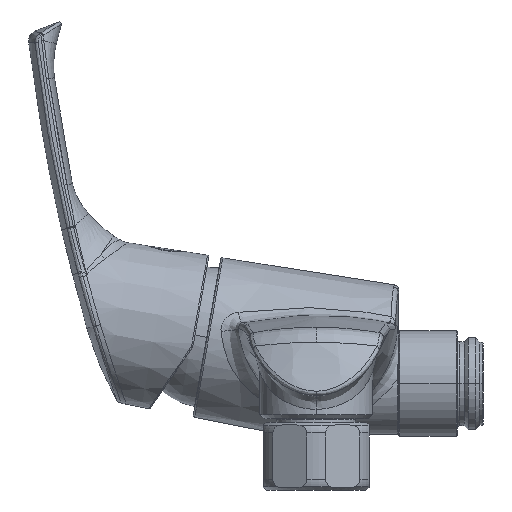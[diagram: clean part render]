
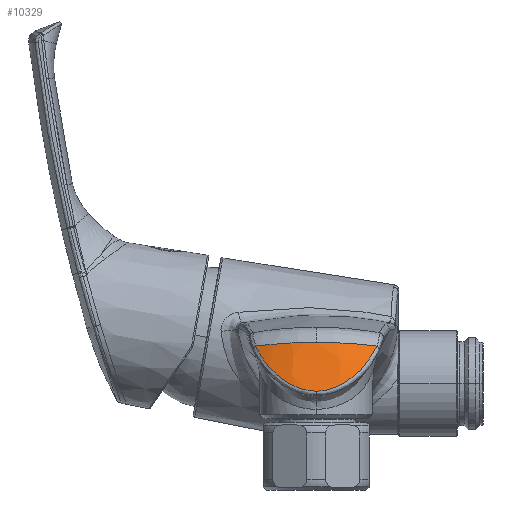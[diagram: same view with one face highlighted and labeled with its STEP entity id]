
A CAD part, left-side view. The second image highlights one B-rep face of the part: STEP entity #10329.
In plain terms, the highlighted free-form (B-spline) face has degree [3, 3] with [4, 4] control points.
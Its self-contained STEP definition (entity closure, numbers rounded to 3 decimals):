
#2993=CARTESIAN_POINT('',(-87.451,72.168,12.69));
#3019=CARTESIAN_POINT('',(-91.788,55.,13.753));
#3059=CARTESIAN_POINT('',(-96.856,55.,-0.141));
#3060=CARTESIAN_POINT('',(-96.856,55.171,
-0.141));
#3061=CARTESIAN_POINT('',(-96.852,55.514,
-0.134));
#3062=CARTESIAN_POINT('',(-96.834,56.031,
-0.104));
#3063=CARTESIAN_POINT('',(-96.804,56.554,
-0.053));
#3064=CARTESIAN_POINT('',(-96.762,57.084,
0.02));
#3065=CARTESIAN_POINT('',(-96.706,57.621,
0.114));
#3066=CARTESIAN_POINT('',(-96.636,58.166,
0.231));
#3067=CARTESIAN_POINT('',(-96.552,58.717,
0.372));
#3068=CARTESIAN_POINT('',(-96.452,59.274,
0.536));
#3069=CARTESIAN_POINT('',(-96.337,59.834,
0.724));
#3070=CARTESIAN_POINT('',(-96.205,60.398,
0.937));
#3071=CARTESIAN_POINT('',(-96.056,60.969,1.177));
#3072=CARTESIAN_POINT('',(-95.886,61.551,1.448));
#3073=CARTESIAN_POINT('',(-95.695,62.141,1.748));
#3074=CARTESIAN_POINT('',(-95.484,62.731,2.076));
#3075=CARTESIAN_POINT('',(-95.251,63.324,2.434));
#3076=CARTESIAN_POINT('',(-94.994,63.922,2.824));
#3077=CARTESIAN_POINT('',(-94.711,64.524,3.249));
#3078=CARTESIAN_POINT('',(-94.401,65.127,3.706));
#3079=CARTESIAN_POINT('',(-94.065,65.728,4.195));
#3080=CARTESIAN_POINT('',(-93.7,66.325,4.717));
#3081=CARTESIAN_POINT('',(-93.307,66.918,5.273));
#3082=CARTESIAN_POINT('',(-92.883,67.503,5.859));
#3083=CARTESIAN_POINT('',(-92.433,68.074,6.472));
#3084=CARTESIAN_POINT('',(-91.959,68.627,7.107));
#3085=CARTESIAN_POINT('',(-91.453,69.169,7.772));
#3086=CARTESIAN_POINT('',(-90.924,69.689,8.455));
#3087=CARTESIAN_POINT('',(-90.378,70.18,9.147));
#3088=CARTESIAN_POINT('',(-89.804,70.652,9.861));
#3089=CARTESIAN_POINT('',(-89.217,71.093,10.578));
#3090=CARTESIAN_POINT('',(-88.643,71.483,11.272));
#3091=CARTESIAN_POINT('',(-88.058,71.842,11.973));
#3092=CARTESIAN_POINT('',(-87.655,72.062,12.45));
#3093=CARTESIAN_POINT('',(-87.451,72.168,12.69));
#3095=CARTESIAN_POINT('',(-87.451,72.168,12.69));
#3096=CARTESIAN_POINT('',(-87.837,71.462,12.776));
#3097=CARTESIAN_POINT('',(-88.607,69.943,12.944));
#3098=CARTESIAN_POINT('',(-89.687,67.314,13.203));
#3099=CARTESIAN_POINT('',(-90.617,64.359,13.439));
#3100=CARTESIAN_POINT('',(-91.296,61.252,13.619));
#3101=CARTESIAN_POINT('',(-91.698,58.143,13.728));
#3102=CARTESIAN_POINT('',(-91.788,56.048,13.753));
#3103=CARTESIAN_POINT('',(-91.788,55.,13.753));
#3105=CARTESIAN_POINT('',(-91.788,55.,13.753));
#3106=CARTESIAN_POINT('',(-91.788,54.065,13.753));
#3107=CARTESIAN_POINT('',(-91.717,52.196,13.733));
#3108=CARTESIAN_POINT('',(-91.395,49.403,13.646));
#3109=CARTESIAN_POINT('',(-90.857,46.644,13.501));
#3110=CARTESIAN_POINT('',(-90.135,44.042,13.317));
#3111=CARTESIAN_POINT('',(-89.29,41.685,13.11));
#3112=CARTESIAN_POINT('',(-88.385,39.612,12.896));
#3113=CARTESIAN_POINT('',(-87.76,38.398,12.759));
#3114=CARTESIAN_POINT('',(-87.452,37.832,12.69));
#3116=CARTESIAN_POINT('',(-87.452,37.832,12.69));
#3117=CARTESIAN_POINT('',(-87.654,37.937,12.45));
#3118=CARTESIAN_POINT('',(-88.056,38.157,11.975));
#3119=CARTESIAN_POINT('',(-88.642,38.516,11.272));
#3120=CARTESIAN_POINT('',(-89.218,38.908,10.577));
#3121=CARTESIAN_POINT('',(-89.803,39.347,9.863));
#3122=CARTESIAN_POINT('',(-90.375,39.818,9.151));
#3123=CARTESIAN_POINT('',(-90.922,40.31,8.457));
#3124=CARTESIAN_POINT('',(-91.451,40.829,7.774));
#3125=CARTESIAN_POINT('',(-91.958,41.371,7.109));
#3126=CARTESIAN_POINT('',(-92.432,41.924,6.474));
#3127=CARTESIAN_POINT('',(-92.882,42.495,5.861));
#3128=CARTESIAN_POINT('',(-93.306,43.081,5.274));
#3129=CARTESIAN_POINT('',(-93.7,43.675,4.717));
#3130=CARTESIAN_POINT('',(-94.065,44.273,4.195));
#3131=CARTESIAN_POINT('',(-94.402,44.873,3.705));
#3132=CARTESIAN_POINT('',(-94.711,45.476,3.248));
#3133=CARTESIAN_POINT('',(-94.994,46.078,2.824));
#3134=CARTESIAN_POINT('',(-95.252,46.676,2.434));
#3135=CARTESIAN_POINT('',(-95.484,47.269,2.076));
#3136=CARTESIAN_POINT('',(-95.695,47.86,1.748));
#3137=CARTESIAN_POINT('',(-95.886,48.449,1.448));
#3138=CARTESIAN_POINT('',(-96.056,49.032,1.177));
#3139=CARTESIAN_POINT('',(-96.206,49.603,
0.937));
#3140=CARTESIAN_POINT('',(-96.337,50.166,
0.724));
#3141=CARTESIAN_POINT('',(-96.452,50.726,
0.536));
#3142=CARTESIAN_POINT('',(-96.552,51.283,
0.372));
#3143=CARTESIAN_POINT('',(-96.636,51.835,
0.231));
#3144=CARTESIAN_POINT('',(-96.706,52.379,
0.114));
#3145=CARTESIAN_POINT('',(-96.762,52.916,
0.02));
#3146=CARTESIAN_POINT('',(-96.804,53.445,
-0.053));
#3147=CARTESIAN_POINT('',(-96.834,53.969,
-0.104));
#3148=CARTESIAN_POINT('',(-96.852,54.486,
-0.134));
#3149=CARTESIAN_POINT('',(-96.856,54.829,
-0.141));
#3150=CARTESIAN_POINT('',(-96.856,55.,-0.141));
#3436=VERTEX_POINT('',#3019);
#3574=VERTEX_POINT('',#2993);
#3577=VERTEX_POINT('',#3059);
#3579=VERTEX_POINT('',#3116);
#10306=CARTESIAN_POINT('',(-86.381,37.759,
14.386));
#10307=CARTESIAN_POINT('',(-88.287,36.258,
9.839));
#10308=CARTESIAN_POINT('',(-89.693,35.081,
5.023));
#10309=CARTESIAN_POINT('',(-90.577,34.249,
0.014));
#10310=CARTESIAN_POINT('',(-93.637,48.51,
13.878));
#10311=CARTESIAN_POINT('',(-96.175,47.945,
9.287));
#10312=CARTESIAN_POINT('',(-98.077,47.502,
4.436));
#10313=CARTESIAN_POINT('',(-99.31,47.189,
-0.597));
#10314=CARTESIAN_POINT('',(-93.637,61.49,
13.878));
#10315=CARTESIAN_POINT('',(-96.175,62.055,
9.287));
#10316=CARTESIAN_POINT('',(-98.077,62.498,
4.436));
#10317=CARTESIAN_POINT('',(-99.31,62.812,
-0.597));
#10318=CARTESIAN_POINT('',(-86.381,72.241,
14.386));
#10319=CARTESIAN_POINT('',(-88.287,73.742,
9.839));
#10320=CARTESIAN_POINT('',(-89.693,74.919,
5.023));
#10321=CARTESIAN_POINT('',(-90.577,75.751,
0.014));
#10322=(BOUNDED_SURFACE()B_SPLINE_SURFACE(3,3,((#10306,#10307,#10308,#10309),(
#10310,#10311,#10312,#10313),(#10314,#10315,#10316,#10317),(#10318,#10319,
#10320,#10321)),.UNSPECIFIED.,.F.,.F.,.F.)B_SPLINE_SURFACE_WITH_KNOTS((4,4),(4,
4),(0.,1.),(0.,1.),.UNSPECIFIED.)GEOMETRIC_REPRESENTATION_ITEM()RATIONAL_B_SPLINE_SURFACE(((1.098,1.092,1.092,
1.098),(0.973,0.967,0.967,
0.973),(0.973,0.967,0.967,
0.973),(1.098,1.092,1.092,
1.098)))REPRESENTATION_ITEM('')SURFACE());
#10323=ORIENTED_EDGE('',*,*,#10014,.T.);
#10324=ORIENTED_EDGE('',*,*,#10215,.T.);
#10325=ORIENTED_EDGE('',*,*,#10299,.T.);
#10326=ORIENTED_EDGE('',*,*,#9860,.T.);
#10327=EDGE_LOOP('',(#10323,#10324,#10325,#10326));
#10328=FACE_OUTER_BOUND('',#10327,.F.);
#10329=ADVANCED_FACE('',(#10328),#10322,.T.);
#3094=B_SPLINE_CURVE_WITH_KNOTS('',3,(#3059,#3060,#3061,#3062,#3063,#3064,#3065,
#3066,#3067,#3068,#3069,#3070,#3071,#3072,#3073,#3074,#3075,#3076,#3077,#3078,
#3079,#3080,#3081,#3082,#3083,#3084,#3085,#3086,#3087,#3088,#3089,#3090,#3091,
#3092,#3093),.UNSPECIFIED.,.F.,.F.,(4,1,1,1,1,1,1,1,1,1,1,1,1,1,1,1,1,1,1,1,1,1,
1,1,1,1,1,1,1,1,1,1,4),(0.,0.031,0.063,0.094,0.125,0.156,
0.188,0.219,0.25,0.281,0.313,0.344,0.375,0.406,
0.438,0.469,0.5,0.531,0.563,0.594,0.625,0.656,
0.688,0.719,0.75,0.781,0.813,0.844,0.875,0.906,
0.938,0.969,1.),.UNSPECIFIED.);
#3104=B_SPLINE_CURVE_WITH_KNOTS('',3,(#3095,#3096,#3097,#3098,#3099,#3100,#3101,
#3102,#3103),.UNSPECIFIED.,.F.,.F.,(4,1,1,1,1,1,4),(0.,0.167,
0.333,0.5,0.667,0.833,1.),
.UNSPECIFIED.);
#3115=B_SPLINE_CURVE_WITH_KNOTS('',3,(#3105,#3106,#3107,#3108,#3109,#3110,#3111,
#3112,#3113,#3114),.UNSPECIFIED.,.F.,.F.,(4,1,1,1,1,1,1,4),(0.,
0.143,0.286,0.429,0.571,
0.714,0.857,1.),.UNSPECIFIED.);
#3151=B_SPLINE_CURVE_WITH_KNOTS('',3,(#3116,#3117,#3118,#3119,#3120,#3121,#3122,
#3123,#3124,#3125,#3126,#3127,#3128,#3129,#3130,#3131,#3132,#3133,#3134,#3135,
#3136,#3137,#3138,#3139,#3140,#3141,#3142,#3143,#3144,#3145,#3146,#3147,#3148,
#3149,#3150),.UNSPECIFIED.,.F.,.F.,(4,1,1,1,1,1,1,1,1,1,1,1,1,1,1,1,1,1,1,1,1,1,
1,1,1,1,1,1,1,1,1,1,4),(0.,0.031,0.063,0.094,0.125,0.156,
0.188,0.219,0.25,0.281,0.313,0.344,0.375,0.406,
0.438,0.469,0.5,0.531,0.563,0.594,0.625,0.656,
0.688,0.719,0.75,0.781,0.813,0.844,0.875,0.906,
0.938,0.969,1.),.UNSPECIFIED.);
#9860=EDGE_CURVE('',#3579,#3577,#3151,.T.);
#10014=EDGE_CURVE('',#3577,#3574,#3094,.T.);
#10215=EDGE_CURVE('',#3574,#3436,#3104,.T.);
#10299=EDGE_CURVE('',#3436,#3579,#3115,.T.);
